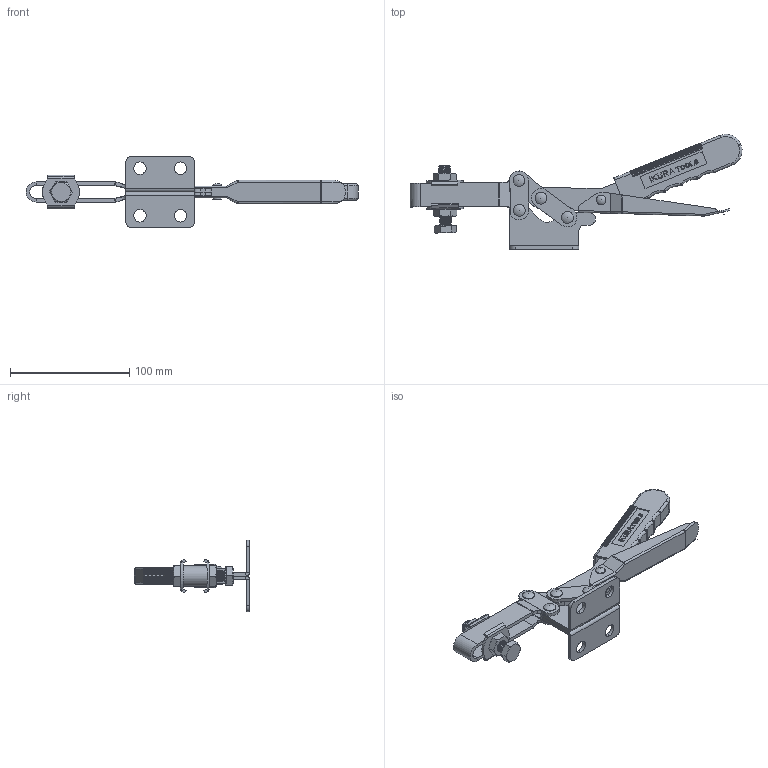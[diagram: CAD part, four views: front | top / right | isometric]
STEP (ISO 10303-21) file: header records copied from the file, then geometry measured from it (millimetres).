
FILE_DESCRIPTION (( 'STEP AP214' ), '1' );
FILE_NAME ('ISK-38K‘å0.STEP', '2015-08-06T06:53:30', ( '' ), ( '' ), 'SwSTEP 2.0', 'SolidWorks 2015', '' );
FILE_SCHEMA (( 'AUTOMOTIVE_DESIGN' ));
Length unit declared in the file: millimetre
Products named in the file (12): hexagon nut_3_jis_JIS B 1181 Hexagon nut - Class 3 Finished M10 --N; continuous thread hexagon head bolt_a_jis_JIS B 1180 Continuous thread hexagon head bolt A M10 x 50 --S; Washer_D10-20; Grip; Sub Handle; Handle; Link; Arm; Base; ISK-38K大0; Rivet_Φ6×12; Rivet_Φ4×10
Assembly tree (17 placements, depth 2):
  ISK-38K大0
    Base
    Arm
    Link  x2
    Handle
    Sub Handle
    Grip
    Washer_D10-20  x2
    continuous thread hexagon head bolt_a_jis_JIS B 1180 Continuous thread hexagon head bolt A M10 x 50 --S
    hexagon nut_3_jis_JIS B 1181 Hexagon nut - Class 3 Finished M10 --N  x2
    Rivet_Φ4×10
    Rivet_Φ6×12  x4
Bounding box: 278.75 x 96.77 x 60 mm (x, y, z)
Volume: 100523 mm3; surface area: 71063.3 mm2
Topology: 20 solids, 20 shells, 1779 faces, 4836 edges, 3116 vertices
Faces by surface type: plane 890, cylinder 522, cone 172, bspline 158, sphere 23, torus 14
Entity records: 60114 total; most frequent: CARTESIAN_POINT 16979, ORIENTED_EDGE 9212, DIRECTION 8522, EDGE_CURVE 4606, VECTOR 3042, LINE 3042, VERTEX_POINT 2986, AXIS2_PLACEMENT_3D 2740
